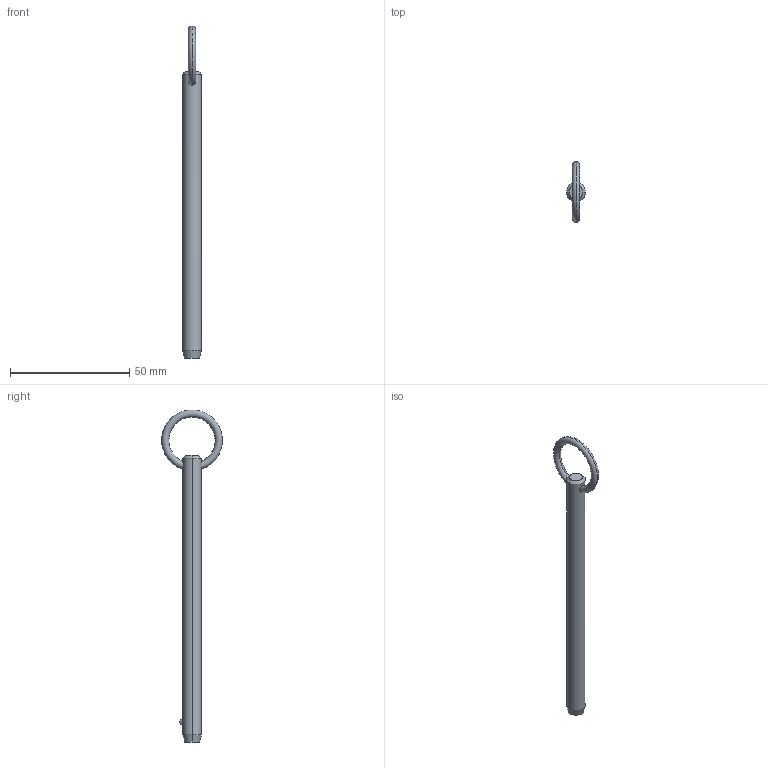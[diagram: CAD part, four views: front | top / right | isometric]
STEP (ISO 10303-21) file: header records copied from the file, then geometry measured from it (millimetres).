
FILE_DESCRIPTION (( 'STEP AP203' ), '1' );
FILE_NAME ('P1250.031-410.step', '2019-07-29T19:55:34', ( '' ), ( '' ), 'SwSTEP 2.0', 'SolidWorks 2017', '' );
FILE_SCHEMA (( 'CONFIG_CONTROL_DESIGN' ));
Length unit declared in the file: millimetre
Products named in the file (1): P1250.031-410
Bounding box: 7.93 x 25.36 x 139.01 mm (x, y, z)
Volume: 6325.8 mm3; surface area: 3624.2 mm2
Topology: 1 solids, 1 shells, 12 faces, 28 edges, 17 vertices
Faces by surface type: cone 4, torus 2, sphere 2, cylinder 2, plane 2
Entity records: 509 total; most frequent: CARTESIAN_POINT 176, DIRECTION 56, ORIENTED_EDGE 48, AXIS2_PLACEMENT_3D 25, EDGE_CURVE 24, EDGE_LOOP 15, VERTEX_POINT 15, CIRCLE 12
